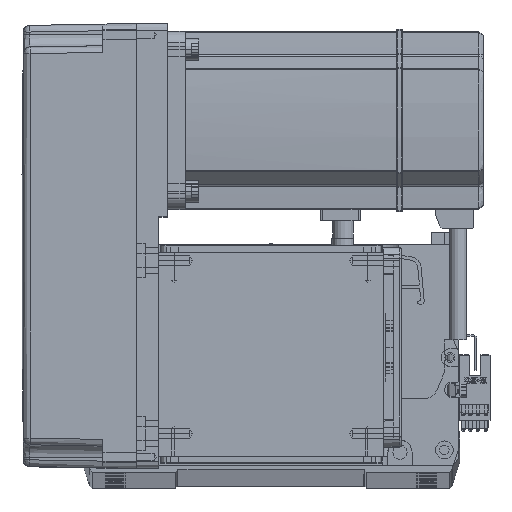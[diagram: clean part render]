
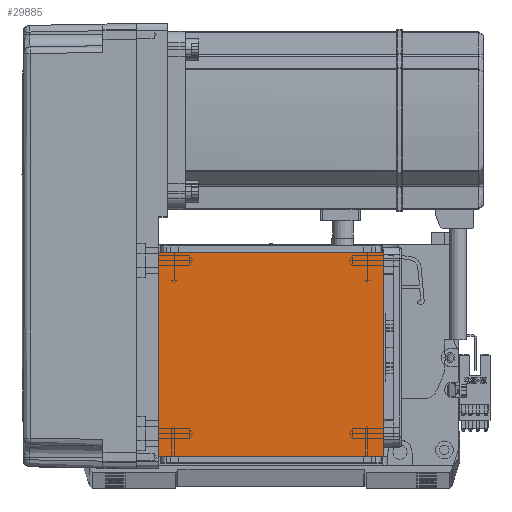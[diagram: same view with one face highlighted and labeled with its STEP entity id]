
A CAD part, top view. The second image highlights one B-rep face of the part: STEP entity #29885.
In plain terms, the highlighted planar face has unit normal (0, 0, 1).
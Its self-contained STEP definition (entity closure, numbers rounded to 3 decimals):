
#1071 = EDGE_CURVE ( 'NONE', #60465, #44842, #29759, .T. ) ;
#3451 = LINE ( 'NONE', #14046, #22175 ) ;
#12063 = DIRECTION ( 'NONE',  ( 1., 0., 0. ) ) ;
#14046 = CARTESIAN_POINT ( 'NONE',  ( 50.5, 122., 115. ) ) ;
#15297 = CARTESIAN_POINT ( 'NONE',  ( 50.5, 20., 115. ) ) ;
#18288 = VECTOR ( 'NONE', #49884, 1000. ) ;
#18361 = VERTEX_POINT ( 'NONE', #15297 ) ;
#18611 = AXIS2_PLACEMENT_3D ( 'NONE', #35430, #54719, #12063 ) ;
#22175 = VECTOR ( 'NONE', #24969, 1000. ) ;
#22710 = ORIENTED_EDGE ( 'NONE', *, *, #1071, .T. ) ;
#22820 = CARTESIAN_POINT ( 'NONE',  ( 50.5, 111.5, 115. ) ) ;
#23193 = CARTESIAN_POINT ( 'NONE',  ( -70.004, 20., 115. ) ) ;
#23450 = EDGE_CURVE ( 'NONE', #18361, #30112, #3451, .T. ) ;
#23569 = DIRECTION ( 'NONE',  ( 1., 0., 0. ) ) ;
#24969 = DIRECTION ( 'NONE',  ( 0., 1., 0. ) ) ;
#29275 = EDGE_CURVE ( 'NONE', #18361, #44842, #36170, .T. ) ;
#29552 = DIRECTION ( 'NONE',  ( 0., -1., 0. ) ) ;
#29759 = LINE ( 'NONE', #39969, #39954 ) ;
#29885 = ADVANCED_FACE ( 'NONE', ( #64268 ), #34956, .T. ) ;
#30112 = VERTEX_POINT ( 'NONE', #22820 ) ;
#34956 = PLANE ( 'NONE',  #18611 ) ;
#35430 = CARTESIAN_POINT ( 'NONE',  ( 0., 0., 115. ) ) ;
#36170 = LINE ( 'NONE', #23193, #18288 ) ;
#36972 = VECTOR ( 'NONE', #23569, 1000. ) ;
#39954 = VECTOR ( 'NONE', #29552, 1000. ) ;
#39969 = CARTESIAN_POINT ( 'NONE',  ( -50.5, 122., 115. ) ) ;
#44842 = VERTEX_POINT ( 'NONE', #53399 ) ;
#49780 = CARTESIAN_POINT ( 'NONE',  ( -70.004, 111.5, 115. ) ) ;
#49884 = DIRECTION ( 'NONE',  ( -1., 0., 0. ) ) ;
#50993 = ORIENTED_EDGE ( 'NONE', *, *, #29275, .F. ) ;
#51515 = LINE ( 'NONE', #49780, #36972 ) ;
#53399 = CARTESIAN_POINT ( 'NONE',  ( -50.5, 20., 115. ) ) ;
#53932 = CARTESIAN_POINT ( 'NONE',  ( -50.5, 111.5, 115. ) ) ;
#54719 = DIRECTION ( 'NONE',  ( 0., 0., 1. ) ) ;
#56264 = ORIENTED_EDGE ( 'NONE', *, *, #61896, .F. ) ;
#60465 = VERTEX_POINT ( 'NONE', #53932 ) ;
#61896 = EDGE_CURVE ( 'NONE', #60465, #30112, #51515, .T. ) ;
#64268 = FACE_OUTER_BOUND ( 'NONE', #66485, .T. ) ;
#66485 = EDGE_LOOP ( 'NONE', ( #56264, #22710, #50993, #67481 ) ) ;
#67481 = ORIENTED_EDGE ( 'NONE', *, *, #23450, .T. ) ;
